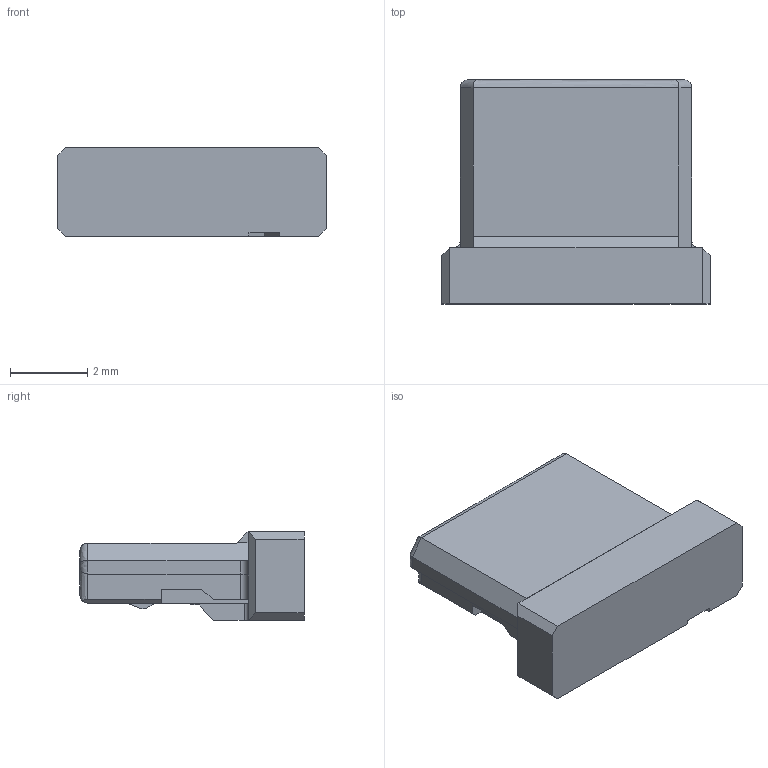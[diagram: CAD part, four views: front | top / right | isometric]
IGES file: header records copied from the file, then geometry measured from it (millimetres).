
Start section: Elysium IGES Interface
Global section: file name: T:\3D_USER\3D_(‹¤’Ê)NCW‹Z\DF14\DF14-4S-1.25C.igs; native system: CoCreate Modeling 16.00B  02-Dec-2008; preprocessor: CoCreate IGES_3D V2.2; author: Unknown; organization: Unknown; date: 20100406.111820; units: millimetre
Bounding box: 6.95 x 5.8 x 2.3 mm (x, y, z)
Volume: 62.1 mm3; surface area: 122.5 mm2
Topology: 1 solids, 1 shells, 99 faces, 267 edges, 172 vertices
Faces by surface type: bspline 99
